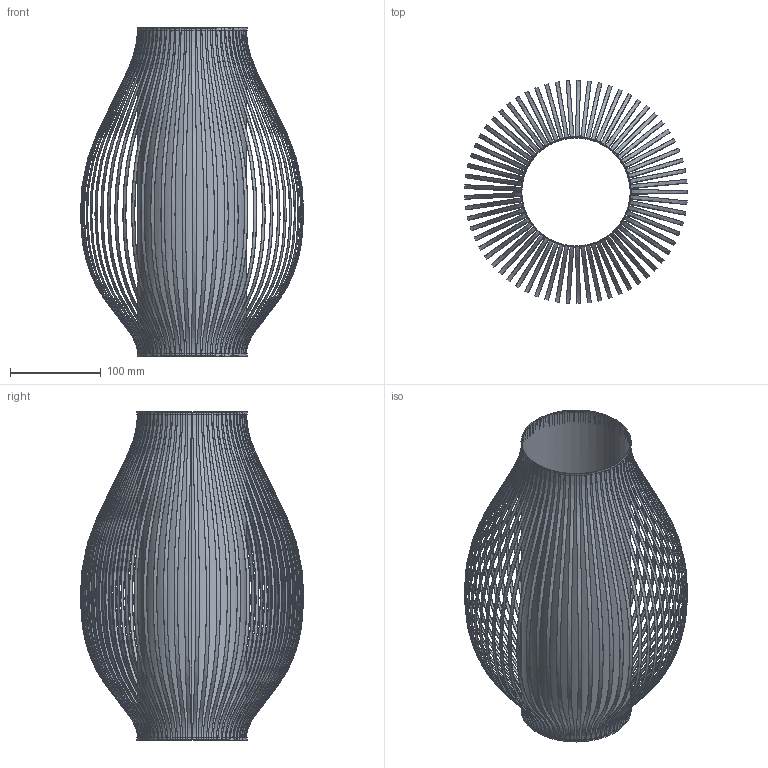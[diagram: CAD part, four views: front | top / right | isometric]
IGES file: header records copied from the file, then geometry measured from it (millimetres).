
Start section: SolidWorks IGES file using analytic representation for surfaces
Global section: file name: \\srvficheros\grupos\DISENYO\DESARROLLO DE PRODUCTO\_3D_WEB\MIRTA-S30540\MIRTA-S30540.IGS; native system: SolidWorks 2025; preprocessor: SolidWorks 2025; author: d.pons; date: 260114.131543; units: millimetre
Bounding box: 245.67 x 245.74 x 362.04 mm (x, y, z)
Surface area: 351147.1 mm2 (no closed solid volume)
Topology: 0 solids, 0 shells, 396 faces, 1584 edges, 1584 vertices
Faces by surface type: bspline 396
